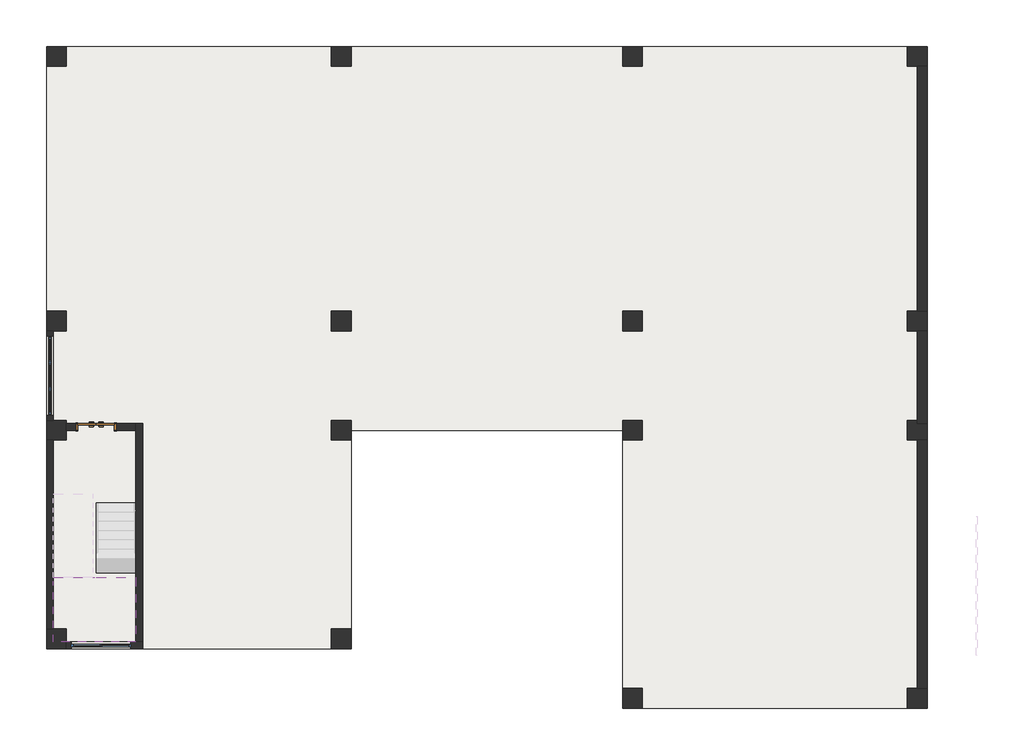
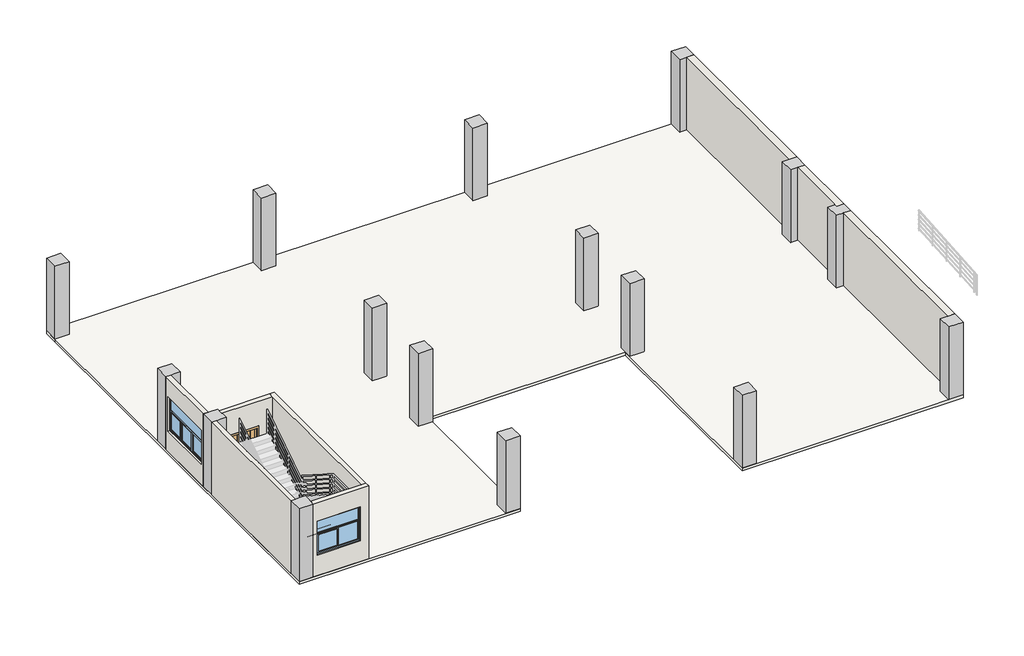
# One storey, part 1 of 4: 16 columns, 8 walls, 2 slabs, 2 windows, 1 door.
"""IFC4 building model written with IfcOpenShell, lengths in millimetres."""

from ifc_helpers import new_model, si_unit, frame, origin, origin_with_axes, place, context, project, spatial, polyline, outline, extrude, faceted_brep, transform, mapped, element, save
from components import column_600x600_b4176fad, fm1221_e838069c, c2415_e6cdfd47, c1815_059886ae

model = new_model("IFC4")

# Units and contexts
model_context = context("Model", 3, world=origin())
ifc_project = project(units=[si_unit("LENGTHUNIT", "METRE", prefix="MILLI")], contexts=[model_context])

# Site, building, storey
site = spatial("IfcSite", under=ifc_project)
building = spatial("IfcBuilding", under=site)
storey = spatial("IfcBuildingStorey", under=building, Name="标高 1", Elevation=0.0)

# Columns
placement = place(None, origin())
column_600x600_shape = column_600x600_b4176fad(model_context)
element("IfcColumn", 1, ObjectType="混凝土 - 矩形 - 柱 : 600x600", at=placement, inside=storey, context=model_context, shape_type="MappedRepresentation", body=[
    mapped(column_600x600_shape, transform((-12381.7675258, -8436.6725016, 0.0), x_axis=(1.0, 0.0, 0.0), y_axis=(0.0, 1.0, 0.0), z_axis=(0.0, 0.0, 1.0))),
])
element("IfcColumn", 2, ObjectType="混凝土 - 矩形 - 柱 : 600x600", at=placement, inside=storey, context=model_context, shape_type="MappedRepresentation", body=[
    mapped(column_600x600_shape, transform((-12381.7675258, -2136.6725016, 0.0), x_axis=(1.0, 0.0, 0.0), y_axis=(0.0, 1.0, 0.0), z_axis=(0.0, 0.0, 1.0))),
])
element("IfcColumn", 3, ObjectType="混凝土 - 矩形 - 柱 : 600x600", at=placement, inside=storey, context=model_context, shape_type="MappedRepresentation", body=[
    mapped(column_600x600_shape, transform((-12381.7675258, 1163.3274984, 0.0), x_axis=(1.0, 0.0, 0.0), y_axis=(0.0, 1.0, 0.0), z_axis=(0.0, 0.0, 1.0))),
])
element("IfcColumn", 4, ObjectType="混凝土 - 矩形 - 柱 : 600x600", at=placement, inside=storey, context=model_context, shape_type="MappedRepresentation", body=[
    mapped(column_600x600_shape, transform((-12381.7675258, 9163.3274984, 0.0), x_axis=(1.0, 0.0, 0.0), y_axis=(0.0, 1.0, 0.0), z_axis=(0.0, 0.0, 1.0))),
])
element("IfcColumn", 5, ObjectType="混凝土 - 矩形 - 柱 : 600x600", at=placement, inside=storey, context=model_context, shape_type="MappedRepresentation", body=[
    mapped(column_600x600_shape, transform((-3781.7675258, -8436.6725016, 0.0), x_axis=(1.0, 0.0, 0.0), y_axis=(0.0, 1.0, 0.0), z_axis=(0.0, 0.0, 1.0))),
])
element("IfcColumn", 6, ObjectType="混凝土 - 矩形 - 柱 : 600x600", at=placement, inside=storey, context=model_context, shape_type="MappedRepresentation", body=[
    mapped(column_600x600_shape, transform((-3781.7675258, -2136.6725016, 0.0), x_axis=(1.0, 0.0, 0.0), y_axis=(0.0, 1.0, 0.0), z_axis=(0.0, 0.0, 1.0))),
])
element("IfcColumn", 7, ObjectType="混凝土 - 矩形 - 柱 : 600x600", at=placement, inside=storey, context=model_context, shape_type="MappedRepresentation", body=[
    mapped(column_600x600_shape, transform((-3781.7675258, 1163.3274984, 0.0), x_axis=(1.0, 0.0, 0.0), y_axis=(0.0, 1.0, 0.0), z_axis=(0.0, 0.0, 1.0))),
])
element("IfcColumn", 8, ObjectType="混凝土 - 矩形 - 柱 : 600x600", at=placement, inside=storey, context=model_context, shape_type="MappedRepresentation", body=[
    mapped(column_600x600_shape, transform((-3781.7675258, 9163.3274984, 0.0), x_axis=(1.0, 0.0, 0.0), y_axis=(0.0, 1.0, 0.0), z_axis=(0.0, 0.0, 1.0))),
])
element("IfcColumn", 9, ObjectType="混凝土 - 矩形 - 柱 : 600x600", at=placement, inside=storey, context=model_context, shape_type="MappedRepresentation", body=[
    mapped(column_600x600_shape, transform((5018.2324742, -10236.6725016, 0.0), x_axis=(1.0, 0.0, 0.0), y_axis=(0.0, 1.0, 0.0), z_axis=(0.0, 0.0, 1.0))),
])
element("IfcColumn", 10, ObjectType="混凝土 - 矩形 - 柱 : 600x600", at=placement, inside=storey, context=model_context, shape_type="MappedRepresentation", body=[
    mapped(column_600x600_shape, transform((5018.2324742, -2136.6725016, 0.0), x_axis=(1.0, 0.0, 0.0), y_axis=(0.0, 1.0, 0.0), z_axis=(0.0, 0.0, 1.0))),
])
element("IfcColumn", 11, ObjectType="混凝土 - 矩形 - 柱 : 600x600", at=placement, inside=storey, context=model_context, shape_type="MappedRepresentation", body=[
    mapped(column_600x600_shape, transform((5018.2324742, 1163.3274984, 0.0), x_axis=(1.0, 0.0, 0.0), y_axis=(0.0, 1.0, 0.0), z_axis=(0.0, 0.0, 1.0))),
])
element("IfcColumn", 12, ObjectType="混凝土 - 矩形 - 柱 : 600x600", at=placement, inside=storey, context=model_context, shape_type="MappedRepresentation", body=[
    mapped(column_600x600_shape, transform((5018.2324742, 9163.3274984, 0.0), x_axis=(1.0, 0.0, 0.0), y_axis=(0.0, 1.0, 0.0), z_axis=(0.0, 0.0, 1.0))),
])
element("IfcColumn", 13, ObjectType="混凝土 - 矩形 - 柱 : 600x600", at=placement, inside=storey, context=model_context, shape_type="MappedRepresentation", body=[
    mapped(column_600x600_shape, transform((13618.2324742, -10236.6725016, 0.0), x_axis=(1.0, 0.0, 0.0), y_axis=(0.0, 1.0, 0.0), z_axis=(0.0, 0.0, 1.0))),
])
element("IfcColumn", 14, ObjectType="混凝土 - 矩形 - 柱 : 600x600", at=placement, inside=storey, context=model_context, shape_type="MappedRepresentation", body=[
    mapped(column_600x600_shape, transform((13618.2324742, -2136.6725016, 0.0), x_axis=(1.0, 0.0, 0.0), y_axis=(0.0, 1.0, 0.0), z_axis=(0.0, 0.0, 1.0))),
])
element("IfcColumn", 15, ObjectType="混凝土 - 矩形 - 柱 : 600x600", at=placement, inside=storey, context=model_context, shape_type="MappedRepresentation", body=[
    mapped(column_600x600_shape, transform((13618.2324742, 1163.3274984, 0.0), x_axis=(1.0, 0.0, 0.0), y_axis=(0.0, 1.0, 0.0), z_axis=(0.0, 0.0, 1.0))),
])
element("IfcColumn", 16, ObjectType="混凝土 - 矩形 - 柱 : 600x600", at=placement, inside=storey, context=model_context, shape_type="MappedRepresentation", body=[
    mapped(column_600x600_shape, transform((13618.2324742, 9163.3274984, 0.0), x_axis=(1.0, 0.0, 0.0), y_axis=(0.0, 1.0, 0.0), z_axis=(0.0, 0.0, 1.0))),
])

# Door
fm1221_shape = fm1221_e838069c(model_context)
element("IfcDoor", 17, ObjectType="双扇防火门 : FM1221", at=placement, inside=storey, context=model_context, shape_type="MappedRepresentation", body=[
    mapped(fm1221_shape, transform((-11181.7675258, -2036.6725016, 0.0), x_axis=(1.0, 0.0, 0.0), y_axis=(0.0, 1.0, 0.0), z_axis=(0.0, 0.0, 1.0))),
])

# Slabs
element("IfcSlab", 18, ObjectType="底板-120", at=placement, inside=storey, context=model_context, shape_type="SweptSolid", body=[
    extrude(outline(polyline([(-12681.7675258, 8863.3274984), (-12681.7675258, 9463.3274984), (13918.2324742, 9463.3274984), (13918.2324742, -10536.6725016), (4718.2324742, -10536.6725016), (4718.2324742, -2136.6725016), (-3481.7675258, -2136.6725016), (-3481.7675258, -8736.6725016), (-12681.7675258, -8736.6725016), (-12681.7675258, 8863.3274984)])), frame((0.0, 0.0, -120.0), z_axis=(0.0, 0.0, 1.0), x_axis=(1.0, 0.0, 0.0)), (0.0, 0.0, 1.0), 120.0),
])
element("IfcSlab", 19, ObjectType="150", at=placement, inside=storey, context=model_context, shape_type="Brep", body=[
    faceted_brep([(-9981.7675258, -6576.6725016, 1600.0), (-11181.7675258, -6576.6725016, 1600.0), (-11281.7675258, -6576.6725016, 1600.0), (-12481.7675258, -6576.6725016, 1600.0), (-12481.7675258, -6825.2953031, 1600.0), (-12481.7675258, -8536.6725016, 1600.0), (-9981.7675258, -8536.6725016, 1600.0), (-9981.7675258, -6608.0497001, 1600.0), (-9981.7675258, -6576.6725016, 1422.2222222), (-9981.7675258, -6576.6725016, 1280.0779692), (-11181.7675258, -6576.6725016, 1280.0779692), (-11181.7675258, -6576.6725016, 1300.0), (-11281.7675258, -6576.6725016, 1300.0), (-11281.7675258, -6576.6725016, 1457.855747), (-12481.7675258, -6576.6725016, 1457.855747), (-12481.7675258, -6825.2953031, 1300.0), (-12481.7675258, -8536.6725016, 1300.0), (-9981.7675258, -8536.6725016, 1300.0), (-9981.7675258, -6608.0497001, 1300.0), (-11281.7675258, -6825.2953031, 1300.0), (-11181.7675258, -6608.0497001, 1300.0)], [[[0, 1, 2, 3, 4, 5, 6, 7]], [[1, 0, 8, 9, 10, 11]], [[2, 1, 11, 12, 13]], [[3, 2, 13, 14]], [[3, 14, 15, 16, 5, 4]], [[6, 5, 16, 17]], [[9, 8, 0, 7, 6, 17, 18]], [[19, 12, 11, 20, 18, 17, 16, 15]], [[12, 19, 13]], [[18, 20, 10, 9]], [[20, 11, 10]], [[19, 15, 14, 13]]]),
])

# Walls
element("IfcWall", 20, ObjectType="Q-200", at=placement, inside=storey, context=model_context, shape_type="SweptSolid", body=[
    extrude(outline(polyline([(863.3274984, 0.0), (-1836.6725016, 0.0), (-1836.6725016, 3200.0), (863.3274984, 3200.0), (863.3274984, 0.0)]), holes=[polyline([(-1686.6725016, 900.0), (713.3274984, 900.0), (713.3274984, 2400.0), (-1686.6725016, 2400.0), (-1686.6725016, 900.0)])]), frame((-12681.7675258, 0.0, 0.0), z_axis=(1.0, 0.0, 0.0), x_axis=(0.0, 1.0, 0.0)), (0.0, 0.0, 1.0), 200.0),
])
element("IfcWall", 21, ObjectType="Q-200", at=placement, inside=storey, context=model_context, shape_type="SweptSolid", body=[
    extrude(outline(polyline([(-12681.7675258, -8136.6725016), (-12681.7675258, -2436.6725016), (-12481.7675258, -2436.6725016), (-12481.7675258, -8136.6725016), (-12681.7675258, -8136.6725016)])), origin_with_axes(), (0.0, 0.0, 1.0), 3200.0),
])
element("IfcWall", 22, ObjectType="Q-200", at=placement, inside=storey, context=model_context, shape_type="Brep", body=[
    faceted_brep([(-12081.7675258, -8736.6725016, 0.0), (-9781.7675258, -8736.6725016, 0.0), (-9781.7675258, -8736.6725016, 3200.0), (-12081.7675258, -8736.6725016, 3200.0), (-11931.7675258, -8736.6725016, 900.0), (-11931.7675258, -8736.6725016, 2400.0), (-10131.7675258, -8736.6725016, 2400.0), (-10131.7675258, -8736.6725016, 900.0), (-12081.7675258, -8536.6725016, 0.0), (-12081.7675258, -8536.6725016, 3200.0), (-9981.7675258, -8536.6725016, 3200.0), (-9781.7675258, -8536.6725016, 3200.0), (-9781.7675258, -8536.6725016, 0.0), (-9981.7675258, -8536.6725016, 0.0), (-11931.7675258, -8536.6725016, 900.0), (-10131.7675258, -8536.6725016, 900.0), (-10131.7675258, -8536.6725016, 2400.0), (-11931.7675258, -8536.6725016, 2400.0)], [[[0, 1, 2, 3], [4, 5, 6, 7]], [[8, 9, 10, 11, 12, 13], [14, 15, 16, 17]], [[1, 0, 8, 13, 12]], [[3, 2, 11, 10, 9]], [[0, 3, 9, 8]], [[2, 1, 12, 11]], [[5, 4, 14, 17]], [[6, 5, 17, 16]], [[7, 6, 16, 15]], [[4, 7, 15, 14]]]),
])
element("IfcWall", 23, ObjectType="Q-200", at=placement, inside=storey, context=model_context, shape_type="Brep", body=[
    faceted_brep([(-9781.7675258, -8536.6725016, 0.0), (-9781.7675258, -1936.6725016, 0.0), (-9781.7675258, -1936.6725016, 3200.0), (-9781.7675258, -8536.6725016, 3200.0), (-9981.7675258, -8536.6725016, 0.0), (-9981.7675258, -8536.6725016, 3200.0), (-9981.7675258, -2136.6725016, 3200.0), (-9981.7675258, -1936.6725016, 3200.0), (-9981.7675258, -1936.6725016, 0.0), (-9981.7675258, -2136.6725016, 0.0)], [[[0, 1, 2, 3]], [[4, 5, 6, 7, 8, 9]], [[1, 0, 4, 9, 8]], [[3, 2, 7, 6, 5]], [[0, 3, 5, 4]], [[2, 1, 8, 7]]]),
])
element("IfcWall", 24, ObjectType="Q-200", at=placement, inside=storey, context=model_context, shape_type="SweptSolid", body=[
    extrude(outline(polyline([(3200.0, -12081.7675258), (0.0, -12081.7675258), (0.0, -11781.7675258), (2100.0, -11781.7675258), (2100.0, -10581.7675258), (0.0, -10581.7675258), (0.0, -9981.7675258), (3200.0, -9981.7675258), (3200.0, -12081.7675258)])), frame((0.0, -2136.6725016, 0.0), z_axis=(0.0, 1.0, 0.0), x_axis=(0.0, 0.0, 1.0)), (0.0, 0.0, 1.0), 200.0),
])
element("IfcWall", 25, ObjectType="Q-300", at=placement, inside=storey, context=model_context, shape_type="SweptSolid", body=[
    extrude(outline(polyline([(13618.2324742, 1463.3274984), (13618.2324742, 8863.3274984), (13918.2324742, 8863.3274984), (13918.2324742, 1463.3274984), (13618.2324742, 1463.3274984)])), origin_with_axes(), (0.0, 0.0, 1.0), 3200.0),
])
element("IfcWall", 26, ObjectType="Q-300", at=placement, inside=storey, context=model_context, shape_type="SweptSolid", body=[
    extrude(outline(polyline([(13618.2324742, -1936.6725016), (13618.2324742, 863.3274984), (13918.2324742, 863.3274984), (13918.2324742, -1936.6725016), (13618.2324742, -1936.6725016)])), origin_with_axes(), (0.0, 0.0, 1.0), 3200.0),
])
element("IfcWall", 27, ObjectType="Q-300", at=placement, inside=storey, context=model_context, shape_type="SweptSolid", body=[
    extrude(outline(polyline([(13618.2324742, -9936.6725016), (13618.2324742, -2436.6725016), (13918.2324742, -2436.6725016), (13918.2324742, -9936.6725016), (13618.2324742, -9936.6725016)])), origin_with_axes(), (0.0, 0.0, 1.0), 3200.0),
])

# Windows
c2415_shape = c2415_e6cdfd47(model_context)
element("IfcWindow", 28, ObjectType="组合窗 - 双层三列(三扇平开) - 上部单扇 : C2415", at=placement, inside=storey, context=model_context, shape_type="MappedRepresentation", body=[
    mapped(c2415_shape, transform((-12581.7675258, -486.6725016, -100.0), x_axis=(0.0, 1.0, 0.0), y_axis=(-1.0, 0.0, 0.0), z_axis=(0.0, 0.0, 1.0))),
])
c1815_shape = c1815_059886ae(model_context)
element("IfcWindow", 29, ObjectType="组合窗 - 双层单列(固定+推拉) : c1815", at=placement, inside=storey, context=model_context, shape_type="MappedRepresentation", body=[
    mapped(c1815_shape, transform((-11031.7675258, -8636.6725016, 0.0), x_axis=(1.0, 0.0, 0.0), y_axis=(0.0, 1.0, 0.0), z_axis=(0.0, 0.0, 1.0))),
])

save(model, "model.ifc")
